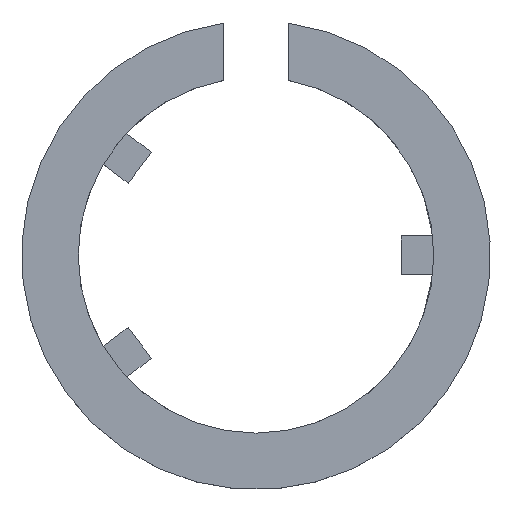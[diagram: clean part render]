
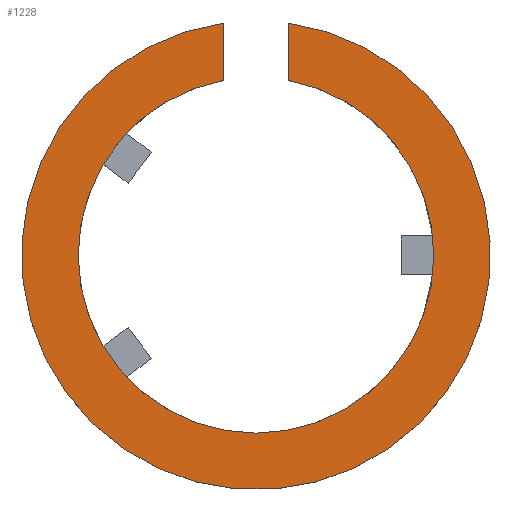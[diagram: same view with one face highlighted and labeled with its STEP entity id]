
A CAD part, top view. The second image highlights one B-rep face of the part: STEP entity #1228.
In plain terms, the highlighted planar face has unit normal (0, 0, 1).
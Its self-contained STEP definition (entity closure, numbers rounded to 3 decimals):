
#51 = CYLINDRICAL_SURFACE('',#52,29.);
#52 = AXIS2_PLACEMENT_3D('',#53,#54,#55);
#53 = CARTESIAN_POINT('',(0.,0.,0.));
#54 = DIRECTION('',(-0.,-0.,-1.));
#55 = DIRECTION('',(1.,0.,0.));
#76 = VERTEX_POINT('',#77);
#77 = CARTESIAN_POINT('',(-4.,28.723,3.2));
#90 = PLANE('',#91);
#91 = AXIS2_PLACEMENT_3D('',#92,#93,#94);
#92 = CARTESIAN_POINT('',(-4.,20.,0.));
#93 = DIRECTION('',(1.,0.,0.));
#94 = DIRECTION('',(0.,0.,1.));
#101 = EDGE_CURVE('',#102,#76,#104,.T.);
#102 = VERTEX_POINT('',#103);
#103 = CARTESIAN_POINT('',(4.,28.723,3.2));
#104 = SURFACE_CURVE('',#105,(#110,#117),.PCURVE_S1.);
#105 = CIRCLE('',#106,29.);
#106 = AXIS2_PLACEMENT_3D('',#107,#108,#109);
#107 = CARTESIAN_POINT('',(0.,0.,3.2));
#108 = DIRECTION('',(0.,0.,-1.));
#109 = DIRECTION('',(0.138,0.99,0.));
#110 = PCURVE('',#51,#111);
#111 = DEFINITIONAL_REPRESENTATION('',(#112),#116);
#112 = LINE('',#113,#114);
#113 = CARTESIAN_POINT('',(-7.716,-3.2));
#114 = VECTOR('',#115,1.);
#115 = DIRECTION('',(1.,-0.));
#116 = ( GEOMETRIC_REPRESENTATION_CONTEXT(2) 
PARAMETRIC_REPRESENTATION_CONTEXT() REPRESENTATION_CONTEXT('2D SPACE',''
  ) );
#117 = PCURVE('',#118,#123);
#118 = PLANE('',#119);
#119 = AXIS2_PLACEMENT_3D('',#120,#121,#122);
#120 = CARTESIAN_POINT('',(0.,0.,3.2));
#121 = DIRECTION('',(0.,0.,1.));
#122 = DIRECTION('',(1.,0.,-0.));
#123 = DEFINITIONAL_REPRESENTATION('',(#124),#132);
#124 = ( BOUNDED_CURVE() B_SPLINE_CURVE(2,(#125,#126,#127,#128,#129,#130
,#131),.UNSPECIFIED.,.T.,.F.) B_SPLINE_CURVE_WITH_KNOTS((1,2,2,2,2,1),(
    -2.094,0.,2.094,4.189,6.283,
8.378),.UNSPECIFIED.) CURVE() GEOMETRIC_REPRESENTATION_ITEM() 
RATIONAL_B_SPLINE_CURVE((1.,0.5,1.,0.5,1.,0.5,1.)) REPRESENTATION_ITEM(
  '') );
#125 = CARTESIAN_POINT('',(4.,28.723));
#126 = CARTESIAN_POINT('',(53.749,21.795));
#127 = CARTESIAN_POINT('',(22.875,-17.826));
#128 = CARTESIAN_POINT('',(-8.,-57.446));
#129 = CARTESIAN_POINT('',(-26.875,-10.897));
#130 = CARTESIAN_POINT('',(-45.749,35.651));
#131 = CARTESIAN_POINT('',(4.,28.723));
#132 = ( GEOMETRIC_REPRESENTATION_CONTEXT(2) 
PARAMETRIC_REPRESENTATION_CONTEXT() REPRESENTATION_CONTEXT('2D SPACE',''
  ) );
#147 = PLANE('',#148);
#148 = AXIS2_PLACEMENT_3D('',#149,#150,#151);
#149 = CARTESIAN_POINT('',(4.,20.,0.));
#150 = DIRECTION('',(1.,0.,0.));
#151 = DIRECTION('',(0.,0.,1.));
#162 = VERTEX_POINT('',#163);
#163 = CARTESIAN_POINT('',(4.,21.633,3.2));
#178 = CYLINDRICAL_SURFACE('',#179,22.);
#179 = AXIS2_PLACEMENT_3D('',#180,#181,#182);
#180 = CARTESIAN_POINT('',(0.,0.,0.));
#181 = DIRECTION('',(-0.,-0.,-1.));
#182 = DIRECTION('',(1.,0.,0.));
#211 = EDGE_CURVE('',#162,#102,#212,.T.);
#212 = SURFACE_CURVE('',#213,(#217,#223),.PCURVE_S1.);
#213 = LINE('',#214,#215);
#214 = CARTESIAN_POINT('',(4.,10.,3.2));
#215 = VECTOR('',#216,1.);
#216 = DIRECTION('',(0.,1.,0.));
#217 = PCURVE('',#147,#218);
#218 = DEFINITIONAL_REPRESENTATION('',(#219),#222);
#219 = B_SPLINE_CURVE_WITH_KNOTS('',1,(#220,#221),.UNSPECIFIED.,.F.,.F.,
  (2,2),(10.,19.),.PIECEWISE_BEZIER_KNOTS.);
#220 = CARTESIAN_POINT('',(3.2,0.));
#221 = CARTESIAN_POINT('',(3.2,-9.));
#222 = ( GEOMETRIC_REPRESENTATION_CONTEXT(2) 
PARAMETRIC_REPRESENTATION_CONTEXT() REPRESENTATION_CONTEXT('2D SPACE',''
  ) );
#223 = PCURVE('',#118,#224);
#224 = DEFINITIONAL_REPRESENTATION('',(#225),#228);
#225 = B_SPLINE_CURVE_WITH_KNOTS('',1,(#226,#227),.UNSPECIFIED.,.F.,.F.,
  (2,2),(10.,19.),.PIECEWISE_BEZIER_KNOTS.);
#226 = CARTESIAN_POINT('',(4.,20.));
#227 = CARTESIAN_POINT('',(4.,29.));
#228 = ( GEOMETRIC_REPRESENTATION_CONTEXT(2) 
PARAMETRIC_REPRESENTATION_CONTEXT() REPRESENTATION_CONTEXT('2D SPACE',''
  ) );
#233 = EDGE_CURVE('',#162,#234,#236,.T.);
#234 = VERTEX_POINT('',#235);
#235 = CARTESIAN_POINT('',(-4.,21.633,3.2));
#236 = SURFACE_CURVE('',#237,(#242,#249),.PCURVE_S1.);
#237 = CIRCLE('',#238,22.);
#238 = AXIS2_PLACEMENT_3D('',#239,#240,#241);
#239 = CARTESIAN_POINT('',(0.,0.,3.2));
#240 = DIRECTION('',(0.,0.,-1.));
#241 = DIRECTION('',(0.182,0.983,0.));
#242 = PCURVE('',#178,#243);
#243 = DEFINITIONAL_REPRESENTATION('',(#244),#248);
#244 = LINE('',#245,#246);
#245 = CARTESIAN_POINT('',(-7.671,-3.2));
#246 = VECTOR('',#247,1.);
#247 = DIRECTION('',(1.,-0.));
#248 = ( GEOMETRIC_REPRESENTATION_CONTEXT(2) 
PARAMETRIC_REPRESENTATION_CONTEXT() REPRESENTATION_CONTEXT('2D SPACE',''
  ) );
#249 = PCURVE('',#118,#250);
#250 = DEFINITIONAL_REPRESENTATION('',(#251),#259);
#251 = ( BOUNDED_CURVE() B_SPLINE_CURVE(2,(#252,#253,#254,#255,#256,#257
,#258),.UNSPECIFIED.,.T.,.F.) B_SPLINE_CURVE_WITH_KNOTS((1,2,2,2,2,1),(
    -2.094,0.,2.094,4.189,6.283,
8.378),.UNSPECIFIED.) CURVE() GEOMETRIC_REPRESENTATION_ITEM() 
RATIONAL_B_SPLINE_CURVE((1.,0.5,1.,0.5,1.,0.5,1.)) REPRESENTATION_ITEM(
  '') );
#252 = CARTESIAN_POINT('',(4.,21.633));
#253 = CARTESIAN_POINT('',(41.47,14.705));
#254 = CARTESIAN_POINT('',(16.735,-14.281));
#255 = CARTESIAN_POINT('',(-8.,-43.267));
#256 = CARTESIAN_POINT('',(-20.735,-7.353));
#257 = CARTESIAN_POINT('',(-33.47,28.562));
#258 = CARTESIAN_POINT('',(4.,21.633));
#259 = ( GEOMETRIC_REPRESENTATION_CONTEXT(2) 
PARAMETRIC_REPRESENTATION_CONTEXT() REPRESENTATION_CONTEXT('2D SPACE',''
  ) );
#1228 = ADVANCED_FACE('',(#1229),#118,.T.);
#1229 = FACE_BOUND('',#1230,.T.);
#1230 = EDGE_LOOP('',(#1231,#1250,#1251,#1252));
#1231 = ORIENTED_EDGE('',*,*,#1232,.T.);
#1232 = EDGE_CURVE('',#234,#76,#1233,.T.);
#1233 = SURFACE_CURVE('',#1234,(#1238,#1244),.PCURVE_S1.);
#1234 = LINE('',#1235,#1236);
#1235 = CARTESIAN_POINT('',(-4.,10.,3.2));
#1236 = VECTOR('',#1237,1.);
#1237 = DIRECTION('',(0.,1.,0.));
#1238 = PCURVE('',#118,#1239);
#1239 = DEFINITIONAL_REPRESENTATION('',(#1240),#1243);
#1240 = B_SPLINE_CURVE_WITH_KNOTS('',1,(#1241,#1242),.UNSPECIFIED.,.F.,
  .F.,(2,2),(10.,19.),.PIECEWISE_BEZIER_KNOTS.);
#1241 = CARTESIAN_POINT('',(-4.,20.));
#1242 = CARTESIAN_POINT('',(-4.,29.));
#1243 = ( GEOMETRIC_REPRESENTATION_CONTEXT(2) 
PARAMETRIC_REPRESENTATION_CONTEXT() REPRESENTATION_CONTEXT('2D SPACE',''
  ) );
#1244 = PCURVE('',#90,#1245);
#1245 = DEFINITIONAL_REPRESENTATION('',(#1246),#1249);
#1246 = B_SPLINE_CURVE_WITH_KNOTS('',1,(#1247,#1248),.UNSPECIFIED.,.F.,
  .F.,(2,2),(10.,19.),.PIECEWISE_BEZIER_KNOTS.);
#1247 = CARTESIAN_POINT('',(3.2,0.));
#1248 = CARTESIAN_POINT('',(3.2,-9.));
#1249 = ( GEOMETRIC_REPRESENTATION_CONTEXT(2) 
PARAMETRIC_REPRESENTATION_CONTEXT() REPRESENTATION_CONTEXT('2D SPACE',''
  ) );
#1250 = ORIENTED_EDGE('',*,*,#101,.F.);
#1251 = ORIENTED_EDGE('',*,*,#211,.F.);
#1252 = ORIENTED_EDGE('',*,*,#233,.T.);
